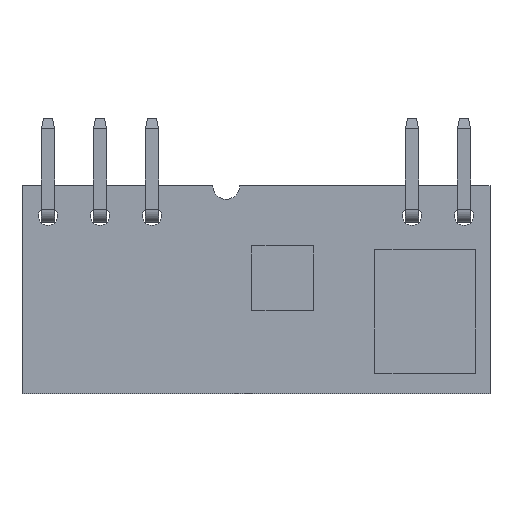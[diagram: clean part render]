
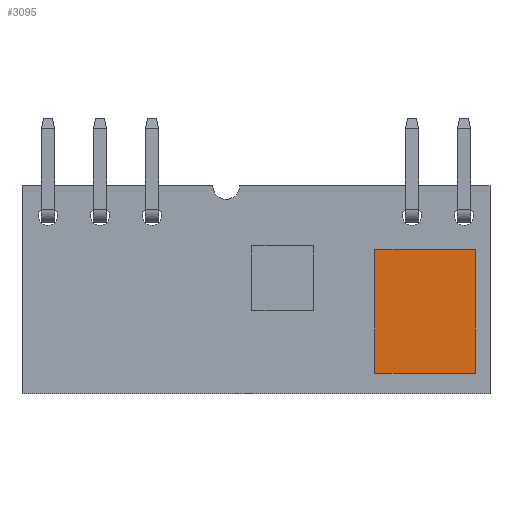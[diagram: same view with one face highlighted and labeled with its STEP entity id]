
A CAD part, front view. The second image highlights one B-rep face of the part: STEP entity #3095.
In plain terms, the highlighted planar face has unit normal (0, -1, 0).
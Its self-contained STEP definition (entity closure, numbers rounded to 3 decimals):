
#6 = CARTESIAN_POINT ( 'NONE',  ( 5.81, -1.3, -4.08 ) ) ;
#265 = LINE ( 'NONE', #3811, #4909 ) ;
#381 = ORIENTED_EDGE ( 'NONE', *, *, #3862, .T. ) ;
#459 = VECTOR ( 'NONE', #2248, 1000. ) ;
#504 = VERTEX_POINT ( 'NONE', #1602 ) ;
#553 = DIRECTION ( 'NONE',  ( -1., 0., 0. ) ) ;
#652 = DIRECTION ( 'NONE',  ( 0., 0., 1. ) ) ;
#795 = CARTESIAN_POINT ( 'NONE',  ( 5.81, -1.3, -4.08 ) ) ;
#1019 = AXIS2_PLACEMENT_3D ( 'NONE', #795, #3939, #1267 ) ;
#1225 = PLANE ( 'NONE',  #1019 ) ;
#1267 = DIRECTION ( 'NONE',  ( 0., 0., -1. ) ) ;
#1381 = VERTEX_POINT ( 'NONE', #5108 ) ;
#1602 = CARTESIAN_POINT ( 'NONE',  ( 5.81, -1.3, -4.08 ) ) ;
#1662 = ORIENTED_EDGE ( 'NONE', *, *, #3244, .T. ) ;
#1956 = VECTOR ( 'NONE', #553, 1000. ) ;
#1999 = CARTESIAN_POINT ( 'NONE',  ( 5.81, -1.3, 1.97 ) ) ;
#2096 = FACE_OUTER_BOUND ( 'NONE', #3005, .T. ) ;
#2248 = DIRECTION ( 'NONE',  ( 1., 0., 0. ) ) ;
#2361 = CARTESIAN_POINT ( 'NONE',  ( 5.81, -1.3, 1.97 ) ) ;
#2860 = LINE ( 'NONE', #6, #459 ) ;
#3005 = EDGE_LOOP ( 'NONE', ( #3943, #1662, #381, #3817 ) ) ;
#3095 = ADVANCED_FACE ( 'NONE', ( #2096 ), #1225, .T. ) ;
#3143 = LINE ( 'NONE', #2361, #1956 ) ;
#3244 = EDGE_CURVE ( 'NONE', #504, #5312, #2860, .T. ) ;
#3740 = EDGE_CURVE ( 'NONE', #1381, #4148, #3143, .T. ) ;
#3811 = CARTESIAN_POINT ( 'NONE',  ( 5.81, -1.3, 1.97 ) ) ;
#3817 = ORIENTED_EDGE ( 'NONE', *, *, #3740, .T. ) ;
#3862 = EDGE_CURVE ( 'NONE', #5312, #1381, #5180, .T. ) ;
#3939 = DIRECTION ( 'NONE',  ( 0., -1., 0. ) ) ;
#3943 = ORIENTED_EDGE ( 'NONE', *, *, #5412, .T. ) ;
#4148 = VERTEX_POINT ( 'NONE', #1999 ) ;
#4715 = CARTESIAN_POINT ( 'NONE',  ( 10.71, -1.3, 1.97 ) ) ;
#4909 = VECTOR ( 'NONE', #5084, 1000. ) ;
#5084 = DIRECTION ( 'NONE',  ( 0., 0., -1. ) ) ;
#5108 = CARTESIAN_POINT ( 'NONE',  ( 10.71, -1.3, 1.97 ) ) ;
#5180 = LINE ( 'NONE', #4715, #5838 ) ;
#5312 = VERTEX_POINT ( 'NONE', #5836 ) ;
#5412 = EDGE_CURVE ( 'NONE', #4148, #504, #265, .T. ) ;
#5836 = CARTESIAN_POINT ( 'NONE',  ( 10.71, -1.3, -4.08 ) ) ;
#5838 = VECTOR ( 'NONE', #652, 1000. ) ;
